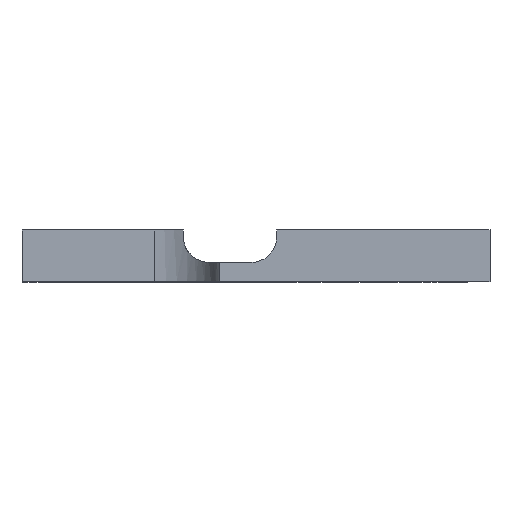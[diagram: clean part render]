
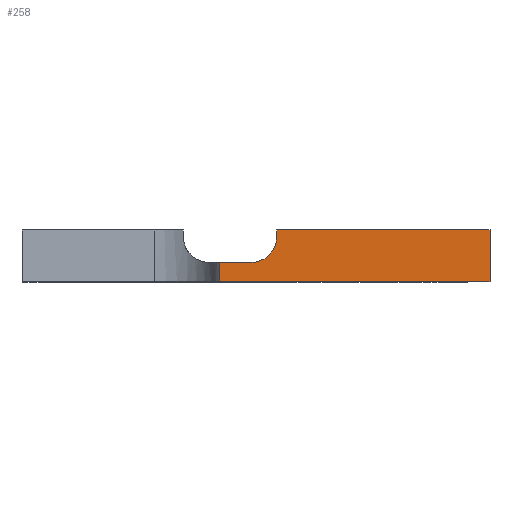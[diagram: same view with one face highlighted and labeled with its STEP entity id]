
A CAD part, front view. The second image highlights one B-rep face of the part: STEP entity #258.
In plain terms, the highlighted planar face has unit normal (0, -1, 0).
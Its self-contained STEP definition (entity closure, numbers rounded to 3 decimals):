
#258=ADVANCED_FACE('',(#304),#283,.F.);
#283=PLANE('',#1145);
#304=FACE_OUTER_BOUND('',#399,.T.);
#399=EDGE_LOOP('',(#680,#681,#682,#683,#684,#685,#686));
#420=CIRCLE('',#1056,1.);
#680=ORIENTED_EDGE('',*,*,#808,.T.);
#681=ORIENTED_EDGE('',*,*,#920,.F.);
#682=ORIENTED_EDGE('',*,*,#880,.T.);
#683=ORIENTED_EDGE('',*,*,#913,.T.);
#684=ORIENTED_EDGE('',*,*,#842,.T.);
#685=ORIENTED_EDGE('',*,*,#835,.T.);
#686=ORIENTED_EDGE('',*,*,#831,.T.);
#717=VERTEX_POINT('',#1448);
#718=VERTEX_POINT('',#1450);
#736=VERTEX_POINT('',#1514);
#738=VERTEX_POINT('',#1522);
#743=VERTEX_POINT('',#1536);
#762=VERTEX_POINT('',#1578);
#773=VERTEX_POINT('',#1606);
#808=EDGE_CURVE('',#718,#717,#927,.T.);
#831=EDGE_CURVE('',#736,#718,#420,.T.);
#835=EDGE_CURVE('',#738,#736,#947,.T.);
#842=EDGE_CURVE('',#743,#738,#951,.T.);
#880=EDGE_CURVE('',#762,#773,#967,.T.);
#913=EDGE_CURVE('',#773,#743,#977,.T.);
#920=EDGE_CURVE('',#762,#717,#982,.T.);
#927=LINE('',#1449,#987);
#947=LINE('',#1521,#1007);
#951=LINE('',#1535,#1011);
#967=LINE('',#1607,#1027);
#977=LINE('',#1692,#1037);
#982=LINE('',#1706,#1042);
#987=VECTOR('',#1163,1.);
#1007=VECTOR('',#1209,1.);
#1011=VECTOR('',#1223,1.);
#1027=VECTOR('',#1289,1.);
#1037=VECTOR('',#1397,1.);
#1042=VECTOR('',#1414,1.);
#1056=AXIS2_PLACEMENT_3D('',#1513,#1199,#1200);
#1145=AXIS2_PLACEMENT_3D('',#1707,#1415,#1416);
#1163=DIRECTION('',(-1.,0.,0.));
#1199=DIRECTION('',(0.,1.,0.));
#1200=DIRECTION('',(1.,0.,0.));
#1209=DIRECTION('',(0.,0.,-1.));
#1223=DIRECTION('',(-1.,0.,0.));
#1289=DIRECTION('',(1.,0.,0.));
#1397=DIRECTION('',(0.,0.,1.));
#1414=DIRECTION('',(0.,0.,1.));
#1415=DIRECTION('',(0.,1.,0.));
#1416=DIRECTION('',(0.,0.,-1.));
#1448=CARTESIAN_POINT('',(342.6,0.,0.75));
#1449=CARTESIAN_POINT('',(344.,0.,0.75));
#1450=CARTESIAN_POINT('',(343.8,0.,0.75));
#1513=CARTESIAN_POINT('',(343.8,0.,1.75));
#1514=CARTESIAN_POINT('',(344.8,0.,1.75));
#1521=CARTESIAN_POINT('',(344.8,0.,19.843));
#1522=CARTESIAN_POINT('',(344.8,0.,2.));
#1535=CARTESIAN_POINT('',(344.,0.,2.));
#1536=CARTESIAN_POINT('',(353.,0.,2.));
#1578=CARTESIAN_POINT('',(342.6,0.,0.));
#1606=CARTESIAN_POINT('',(353.,0.,0.));
#1607=CARTESIAN_POINT('',(344.,0.,0.));
#1692=CARTESIAN_POINT('',(353.,0.,19.843));
#1706=CARTESIAN_POINT('',(342.6,0.,3.));
#1707=CARTESIAN_POINT('',(344.,0.,19.843));
